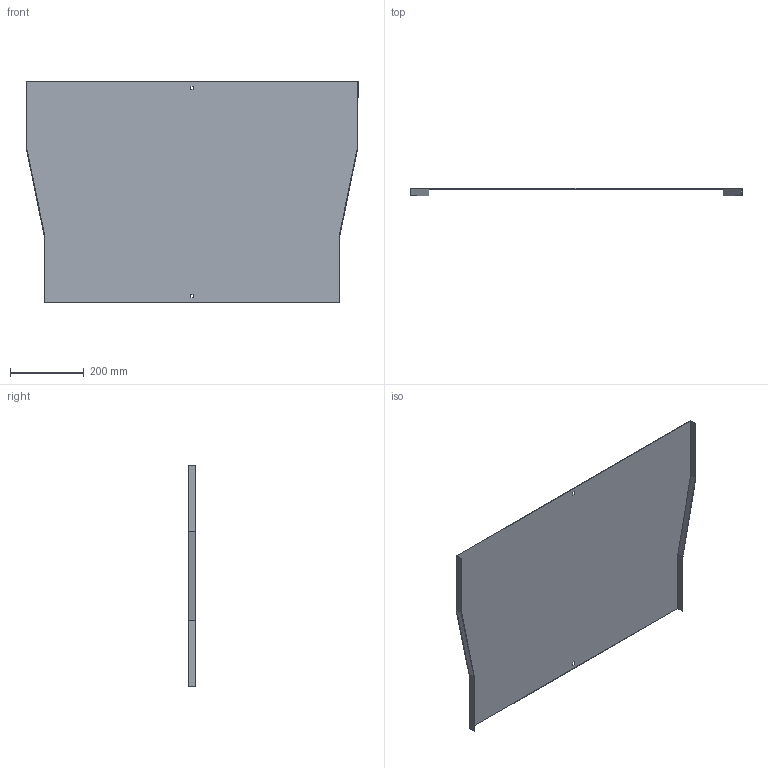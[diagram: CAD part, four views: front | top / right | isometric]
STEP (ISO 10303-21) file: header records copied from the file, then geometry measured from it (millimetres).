
FILE_DESCRIPTION (( 'STEP AP214' ), '1' );
FILE_NAME ('B2X20N8R900X.step', '2025-09-02T15:44:24', ( '' ), ( '' ), 'SwSTEP 2.0', 'SolidWorks 2023', '' );
FILE_SCHEMA (( 'AUTOMOTIVE_DESIGN' ));
Length unit declared in the file: millimetre
Products named in the file (1): B2X20N8R900X
Bounding box: 903 x 20 x 600 mm (x, y, z)
Volume: 801110.5 mm3; surface area: 1072725.8 mm2
Topology: 1 solids, 1 shells, 26 faces, 72 edges, 48 vertices
Faces by surface type: plane 26
Entity records: 847 total; most frequent: CARTESIAN_POINT 147, ORIENTED_EDGE 144, DIRECTION 126, EDGE_CURVE 72, LINE 72, VECTOR 72, VERTEX_POINT 48, EDGE_LOOP 30
